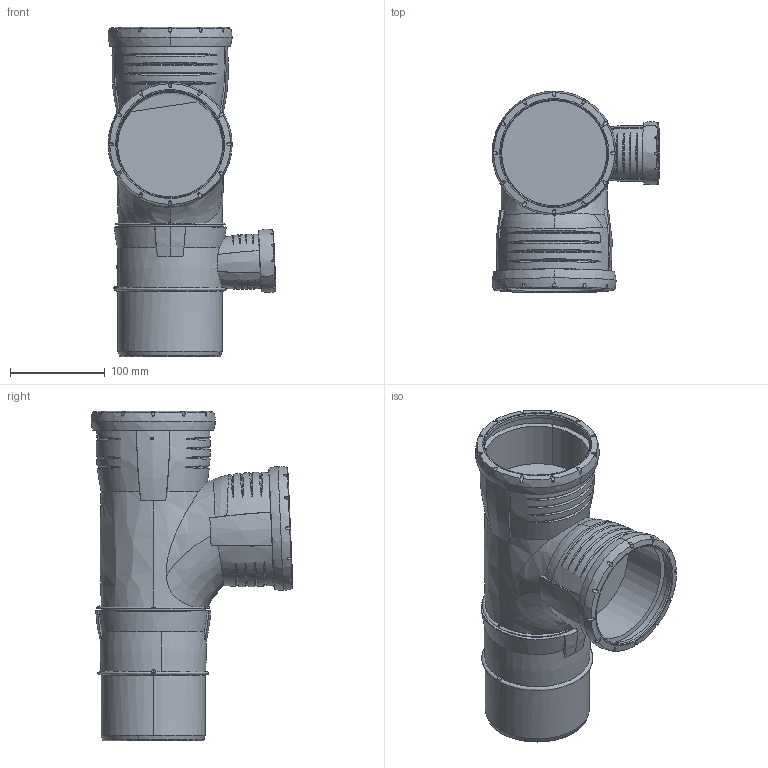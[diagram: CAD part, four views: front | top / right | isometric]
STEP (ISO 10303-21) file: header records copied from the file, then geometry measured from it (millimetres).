
FILE_DESCRIPTION(('CAx-IF Rec.Pracs.---Model Styling and Organization---1.2---2011-12-15','CAx-IF Rec.Pracs.---Geometric and Assembly Validation Properties---4.3---2015-07-16','CAx-IF Rec.Pracs.---Representation and Presentation of Product Manufacturing Information (PMI)---4.0.3---2016-08-25'),'2;1');
FILE_NAME('393565.stp','2025-11-19T16:15:41+01:00',(''),(''),'STEP Interface 4.7 SP2 by CT CoreTechnologie','3D_Analyzer4.7 SP2 by CT CoreTechnologie','');
FILE_SCHEMA(('AP203_CONFIGURATION_CONTROLLED_3D_DESIGN_OF_MECHANICAL_PARTS_AND_ASSEMBLIES_MIM_LF'));
Length unit declared in the file: millimetre
Products named in the file (1): 393565
Bounding box: 177.11 x 212.88 x 347.7 mm (x, y, z)
Surface area: 295525.9 mm2 (no closed solid volume)
Topology: 0 solids, 1 shells, 301 faces, 899 edges, 623 vertices
Faces by surface type: bspline 201, plane 75, cylinder 25
Entity records: 22936 total; most frequent: CARTESIAN_POINT 9779, ORIENTED_EDGE 1782, DIRECTION 1308, EDGE_CURVE 891, VERTEX_POINT 621, PROPERTY_DEFINITION 605, AXIS2_PLACEMENT_3D 521, CIRCLE 420
